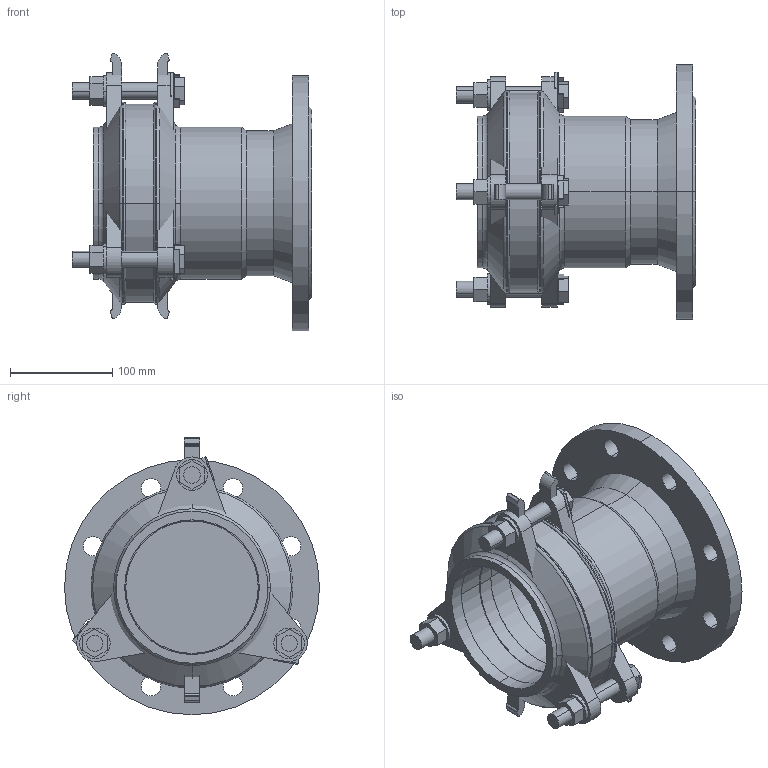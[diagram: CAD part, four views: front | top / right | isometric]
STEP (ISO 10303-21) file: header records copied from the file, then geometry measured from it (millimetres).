
FILE_DESCRIPTION(('STEP AP214'),'1');
FILE_NAME('EM00004744 DN 125-100.STP','2015-01-29T14:03:30',(' '),(' '),'Spatial InterOp 3D',' ',' ');
FILE_SCHEMA(('automotive_design'));
Length unit declared in the file: millimetre
Products named in the file (38): 3D-Objekt
Bounding box: 235 x 250 x 272 mm (x, y, z)
Volume: 2313070.9 mm3; surface area: 607181.7 mm2
Topology: 38 solids, 38 shells, 307 faces, 691 edges, 460 vertices
Faces by surface type: plane 186, cylinder 95, cone 14, torus 12
Entity records: 12021 total; most frequent: DIRECTION 1633, CARTESIAN_POINT 1496, ORIENTED_EDGE 1382, EDGE_CURVE 691, AXIS2_PLACEMENT_3D 597, VERTEX_POINT 460, LINE 439, VECTOR 439
